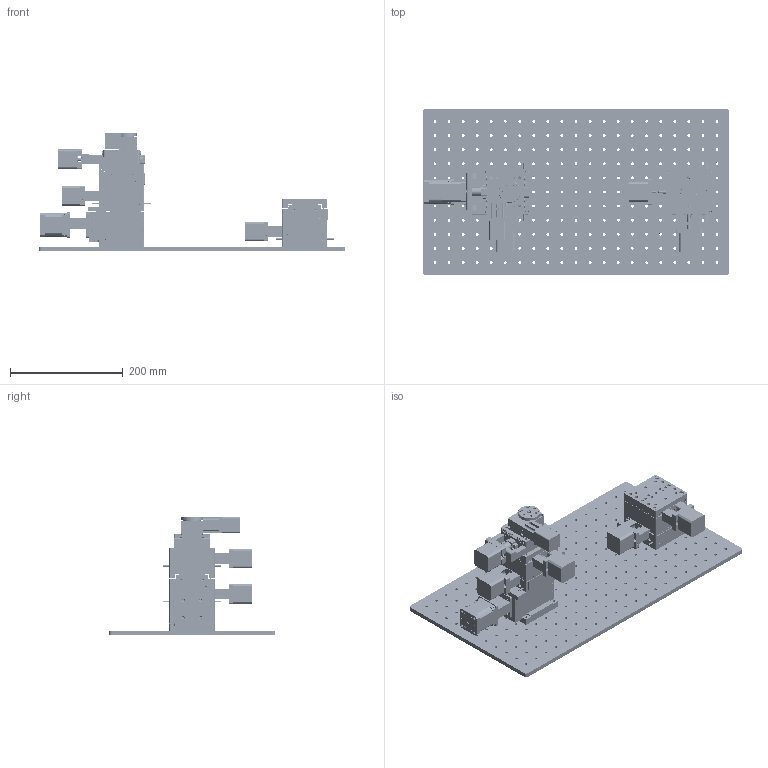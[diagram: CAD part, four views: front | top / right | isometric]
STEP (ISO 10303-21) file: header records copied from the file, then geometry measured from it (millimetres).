
FILE_DESCRIPTION (( 'STEP AP203' ), '1' );
FILE_NAME ('拻粣.STEP', '2026-06-23T14:38:14', ( '' ), ( '' ), 'SwSTEP 2.0', 'SolidWorks 2024', '' );
FILE_SCHEMA (( 'CONFIG_CONTROL_DESIGN' ));
Products named in the file (8): 垫装板; 电动40旋转台; 五轴; 电动角位台; Z20; XY-30㎜-1; XY-30㎜; 平板
Assembly tree (7 placements, depth 2):
  五轴
    平板
    XY-30㎜
    垫装板
    Z20
    XY-30㎜-1
    电动角位台
    电动40旋转台
Bounding box: 544 x 294 x 210 mm (x, y, z)
Volume: 2961631.6 mm3; surface area: 1008023.5 mm2
Topology: 127 solids, 127 shells, 6208 faces, 15897 edges, 10201 vertices
Faces by surface type: cylinder 3720, plane 1919, cone 470, bspline 83, torus 16
Entity records: 233552 total; most frequent: CARTESIAN_POINT 76271, DIRECTION 34181, ORIENTED_EDGE 31058, EDGE_CURVE 15529, AXIS2_PLACEMENT_3D 13353, VERTEX_POINT 10201, EDGE_LOOP 8530, VECTOR 7475
